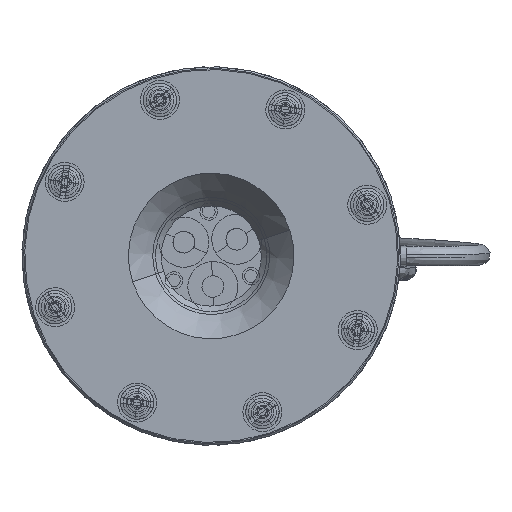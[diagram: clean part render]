
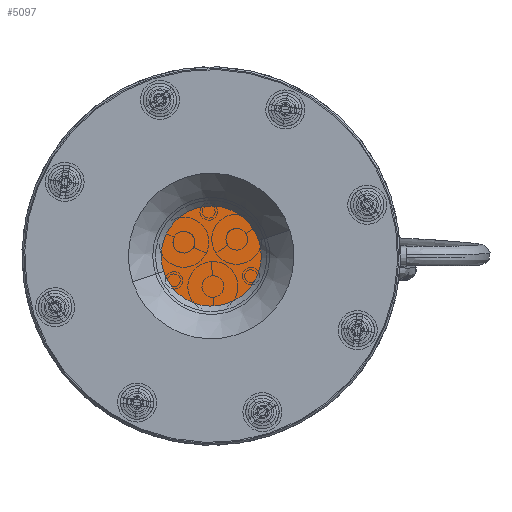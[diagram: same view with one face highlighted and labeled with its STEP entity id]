
A CAD part, front view. The second image highlights one B-rep face of the part: STEP entity #5097.
In plain terms, the highlighted planar face has unit normal (0, -1, 0).
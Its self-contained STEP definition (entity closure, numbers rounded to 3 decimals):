
#452 = CARTESIAN_POINT ( 'NONE',  ( 0., 0., 0. ) ) ;
#692 = CARTESIAN_POINT ( 'NONE',  ( 0., 0., -10. ) ) ;
#722 = FACE_OUTER_BOUND ( 'NONE', #19345, .T. ) ;
#1887 = DIRECTION ( 'NONE',  ( 0., 0., 1. ) ) ;
#3564 = VERTEX_POINT ( 'NONE', #9758 ) ;
#5097 = ADVANCED_FACE ( 'NONE', ( #722 ), #13459, .F. ) ;
#6096 = EDGE_CURVE ( 'NONE', #3564, #22838, #18055, .T. ) ;
#6571 = DIRECTION ( 'NONE',  ( 0., 1., 0. ) ) ;
#7642 = AXIS2_PLACEMENT_3D ( 'NONE', #452, #6571, #14839 ) ;
#9758 = CARTESIAN_POINT ( 'NONE',  ( 0., 0., 10. ) ) ;
#10545 = CIRCLE ( 'NONE', #25710, 10. ) ;
#11053 = CARTESIAN_POINT ( 'NONE',  ( 0., 0., 0. ) ) ;
#12270 = AXIS2_PLACEMENT_3D ( 'NONE', #11053, #13593, #17541 ) ;
#13459 = PLANE ( 'NONE',  #12270 ) ;
#13593 = DIRECTION ( 'NONE',  ( 0., 1., 0. ) ) ;
#13837 = DIRECTION ( 'NONE',  ( 0., 1., 0. ) ) ;
#14839 = DIRECTION ( 'NONE',  ( 0., 0., 1. ) ) ;
#16145 = CARTESIAN_POINT ( 'NONE',  ( 0., 0., 0. ) ) ;
#17299 = ORIENTED_EDGE ( 'NONE', *, *, #23437, .F. ) ;
#17541 = DIRECTION ( 'NONE',  ( 0., 0., 1. ) ) ;
#18055 = CIRCLE ( 'NONE', #7642, 10. ) ;
#19345 = EDGE_LOOP ( 'NONE', ( #17299, #26268 ) ) ;
#22838 = VERTEX_POINT ( 'NONE', #692 ) ;
#23437 = EDGE_CURVE ( 'NONE', #22838, #3564, #10545, .T. ) ;
#25710 = AXIS2_PLACEMENT_3D ( 'NONE', #16145, #13837, #1887 ) ;
#26268 = ORIENTED_EDGE ( 'NONE', *, *, #6096, .F. ) ;
